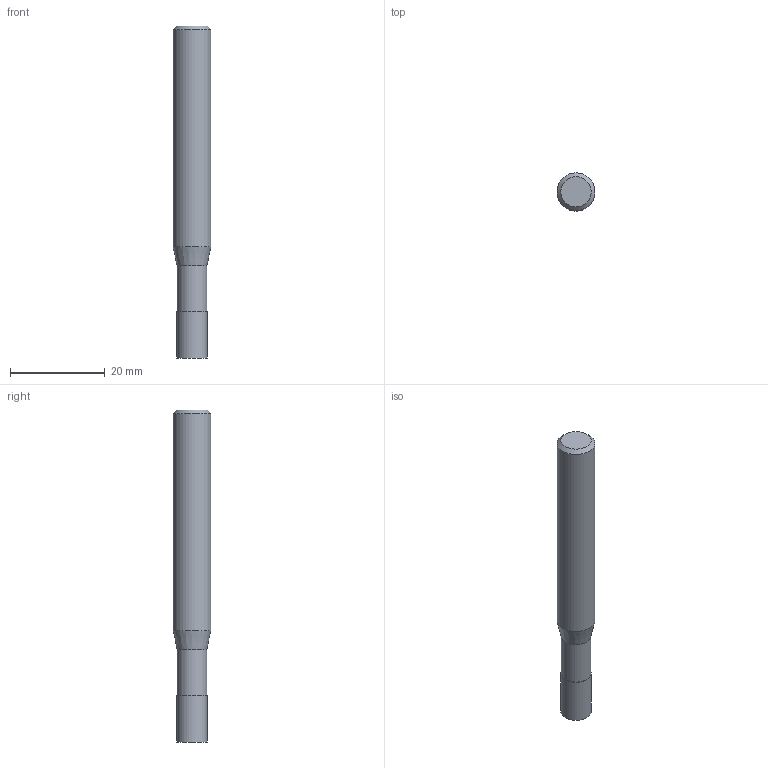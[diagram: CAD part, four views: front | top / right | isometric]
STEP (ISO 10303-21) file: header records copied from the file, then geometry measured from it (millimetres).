
FILE_DESCRIPTION((''),'2;1');
FILE_NAME('C:\Users\nsx150\AppData\Local\Temp\Mastercam 2021\EUJSUNXURU\TEMP.step','2021-04-22T10:28:59',(''),(''),'STEP Write','Mastercam 2021 ... CNC Software, Inc.','');
FILE_SCHEMA(('AUTOMOTIVE_DESIGN'));
Length unit declared in the file: millimetre
Products named in the file (1): None
Bounding box: 8 x 8 x 70 mm (x, y, z)
Volume: 3118.8 mm3; surface area: 1787.8 mm2
Topology: 2 solids, 2 shells, 9 faces, 12 edges, 7 vertices
Faces by surface type: plane 4, cylinder 3, cone 2
Full cylindrical faces by diameter (mm): 6.3 x1, 6.5 x1, 8 x1
Entity records: 211 total; most frequent: DIRECTION 36, CARTESIAN_POINT 25, AXIS2_PLACEMENT_3D 18, ORIENTED_EDGE 14, EDGE_LOOP 14, STYLED_ITEM 12, ADVANCED_FACE 9, FACE_BOUND 8
